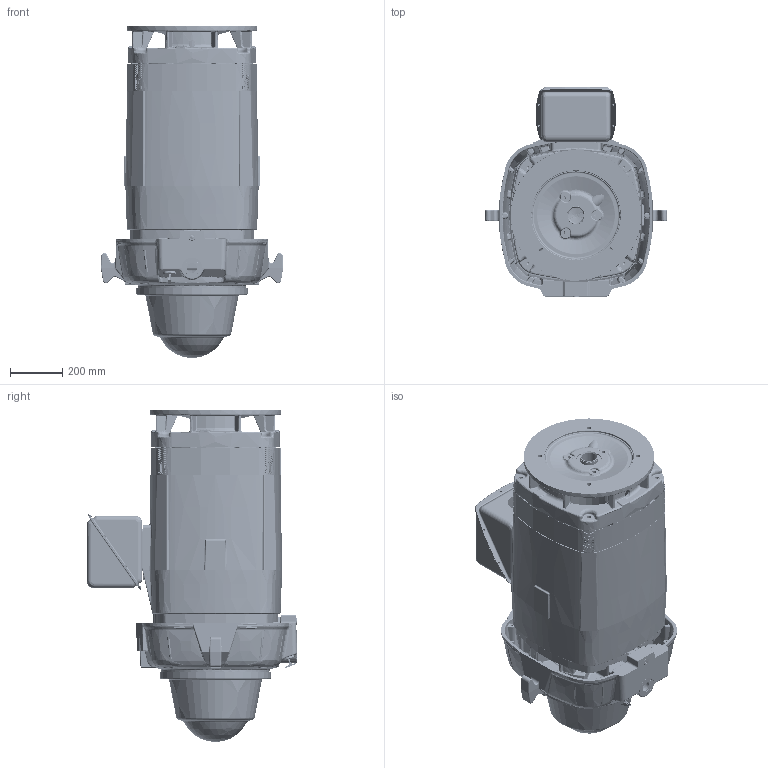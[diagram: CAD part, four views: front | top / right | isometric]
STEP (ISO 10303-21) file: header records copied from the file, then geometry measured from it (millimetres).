
FILE_DESCRIPTION((''),'2;1');
FILE_NAME('440_RU_20_BD_STL_ASM','2019-09-06T09:44:52',('NMC2304'),('Nidec Motor Corporation'),'CREO PARAMETRIC BY PTC INC, 2018020','CREO PARAMETRIC BY PTC INC, 2018020','');
FILE_SCHEMA(('CONFIG_CONTROL_DESIGN'));
Products named in the file (15): 2070594; 2086286-000; 0988193; 0989210; 2079261; 0582109; 0132591; 0189843; 2050051-OBB; 2050016; 2050051-OBC; 2050017; 2084927; HOLLOW_STUB; 440_RU_20_BD_STL_ASM
Assembly tree (14 placements, depth 2):
  440_RU_20_BD_STL_ASM
    2070594
    2086286-000
    0988193
    0989210
    2079261
    0582109
    0132591
    0189843
    2050051-OBB
    2050016
    2050051-OBC
    2050017
    2084927
    HOLLOW_STUB
Bounding box: 698.77 x 805.48 x 1272.36 mm (x, y, z)
Volume: 40515910.2 mm3; surface area: 8217540.7 mm2
Topology: 14 solids, 46 shells, 8933 faces, 22108 edges, 13214 vertices
Faces by surface type: bspline 4469, cylinder 1535, plane 1411, torus 720, cone 466, sphere 291, extrusion 41
Entity records: 422022 total; most frequent: CARTESIAN_POINT 242242, ORIENTED_EDGE 43910, DIRECTION 27498, EDGE_CURVE 22024, VERTEX_POINT 13214, AXIS2_PLACEMENT_3D 10987, B_SPLINE_CURVE_WITH_KNOTS 10057, EDGE_LOOP 9703
